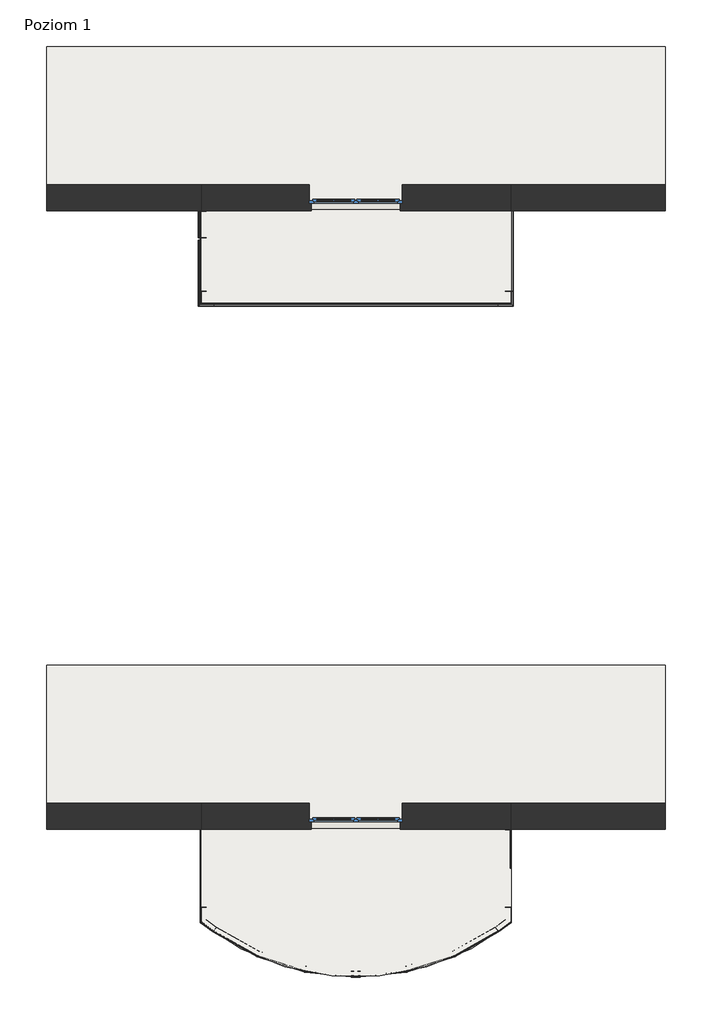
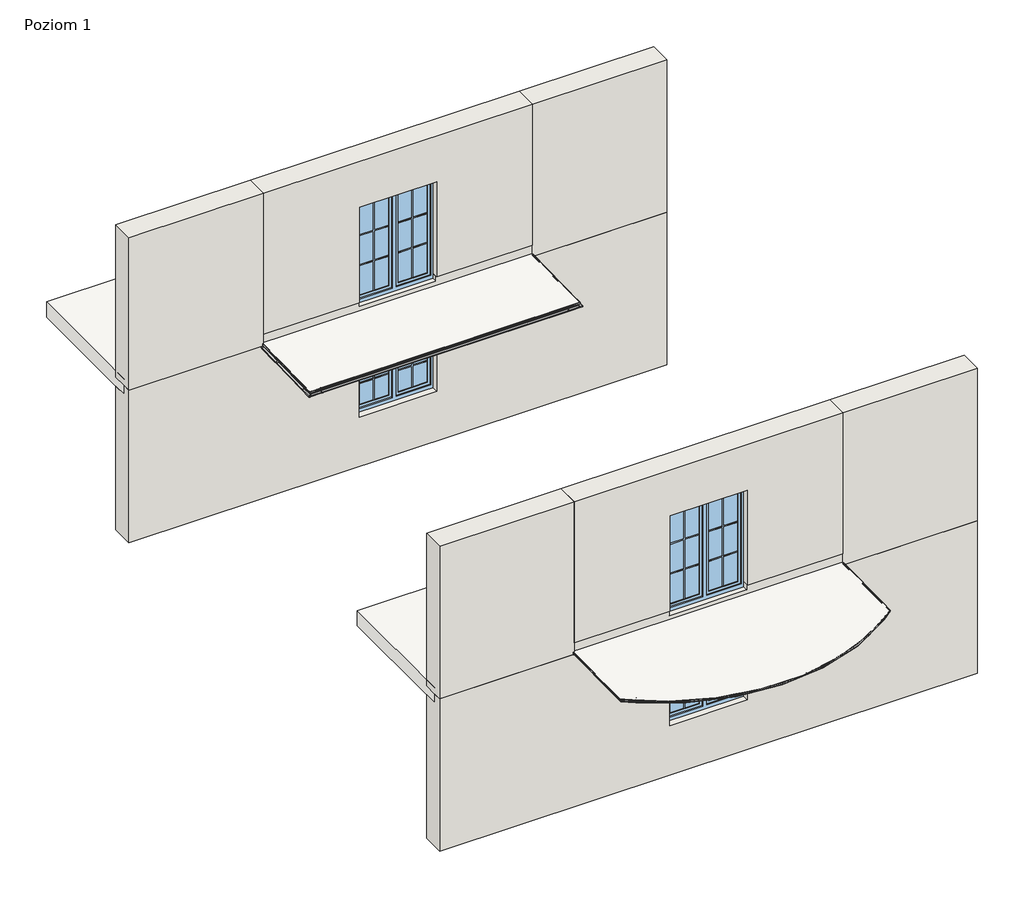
# One storey, part 1 of 4: 15 proxies, 10 walls, 4 slabs, 4 windows.
"""IFC4 building model written with IfcOpenShell, lengths in millimetres."""

from ifc_helpers import new_model, si_unit, frame, origin, place, context, project, spatial, ellipse_curve, faceted_brep, transform, mapped, element, save
from ifc_brep_helpers import plane_surface, cylinder_surface, advanced_brep
from components import k35_28f71dd0, k35_04bc4968, k35_2318d30b, k35_6c38cc01, k35_f5893a44, k35_29e522b6, k35_ef854efd, k35_5c12baea, opk35_b9e4c53d, opk35_ea140d36, rynna_alu_r50_rynna_alu_r50_54312427, rynna_alu_r50_rynna_alu_r50_f6262e87, rynna_alu_r50_rynna_alu_r50_866323d3, rynna_alu_r50_rynna_alu_r50_2037c152, window_150x150_51b7f79a, window_150x200_12b14935

model = new_model("IFC4")

# Units and contexts
model_context = context("Model", 3, world=origin())
ifc_project = project(units=[si_unit("LENGTHUNIT", "METRE", prefix="MILLI")], contexts=[model_context])

# Site, building, storey
site = spatial("IfcSite", under=ifc_project)
building = spatial("IfcBuilding", under=site)
storey = spatial("IfcBuildingStorey", under=building, Name="Poziom 1", Elevation=0.0)

# Proxies
placement = place(None, origin())
k35_shape = k35_28f71dd0(model_context)
element("IfcBuildingElementProxy", 1, Name="K35 Profil okapowy prosty z rynną : K35", ObjectType="K35 Profil okapowy prosty z rynną : K35", at=placement, inside=storey, context=model_context, shape_type="MappedRepresentation", body=[
    mapped(k35_shape, transform((-93404.0384126, 47766.9447036, -109.0), x_axis=(1.0, 0.0, 0.0), y_axis=(0.0, 0.9998044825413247, 0.019773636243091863), z_axis=(0.0, -0.019773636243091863, 0.9998044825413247))),
])
k35_2_shape = k35_04bc4968(model_context)
element("IfcBuildingElementProxy", 2, Name="K35 Profil okapowy prosty z rynną : K35", ObjectType="K35 Profil okapowy prosty z rynną : K35", at=placement, inside=storey, context=model_context, shape_type="MappedRepresentation", body=[
    mapped(k35_2_shape, transform((-93403.8139004, 47976.903645, -104.8475364), x_axis=(0.0, 0.9998044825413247, 0.01977363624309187), y_axis=(-1.0000000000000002, 0.0, 0.0), z_axis=(0.0, -0.019773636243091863, 0.9998044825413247))),
])
k35_3_shape = k35_2318d30b(model_context)
element("IfcBuildingElementProxy", 3, Name="K35 Profil okapowy prosty z rynną : K35", ObjectType="K35 Profil okapowy prosty z rynną : K35", at=placement, inside=storey, context=model_context, shape_type="MappedRepresentation", body=[
    mapped(k35_3_shape, transform((-88384.3806985, 38021.2061428, -94.0703183), x_axis=(-0.001371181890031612, 0.9999243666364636, 0.012222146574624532), y_axis=(-0.9999990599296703, -0.0013710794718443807, -1.675880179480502e-05), z_axis=(0.0, -0.01222215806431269, 0.9999253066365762))),
])
k35_4_shape = k35_6c38cc01(model_context)
element("IfcBuildingElementProxy", 4, Name="K35 Profil okapowy prosty z rynną : K35", ObjectType="K35 Profil okapowy prosty z rynną : K35", at=placement, inside=storey, context=model_context, shape_type="MappedRepresentation", body=[
    mapped(k35_4_shape, transform((-93404.137533, 38021.5303385, -94.0663556), x_axis=(0.0, 0.9999253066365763, 0.012222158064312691), y_axis=(-1.0, 0.0, 0.0), z_axis=(0.0, -0.01222215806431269, 0.9999253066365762))),
])
k35_5_shape = k35_f5893a44(model_context)
element("IfcBuildingElementProxy", 5, Name="K35 Profil okapowy prosty z rynną : K35", ObjectType="K35 Profil okapowy prosty z rynną : K35", at=placement, inside=storey, context=model_context, shape_type="MappedRepresentation", body=[
    mapped(k35_5_shape, transform((-93403.8139004, 48841.5338066, -87.7473107), x_axis=(0.0, 0.9998044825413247, 0.01977363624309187), y_axis=(-1.0000000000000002, 0.0, 0.0), z_axis=(0.0, -0.019773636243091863, 0.9998044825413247))),
])
k35_6_shape = k35_29e522b6(model_context)
element("IfcBuildingElementProxy", 6, Name="K35 Profil okapowy prosty z rynną : K35", ObjectType="K35 Profil okapowy prosty z rynną : K35", at=placement, inside=storey, context=model_context, shape_type="MappedRepresentation", body=[
    mapped(k35_6_shape, transform((-93403.8139004, 48796.7433207, -88.6331547), x_axis=(-0.006059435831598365, 0.9997861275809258, 0.019773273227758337), y_axis=(-0.9999816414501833, -0.0060582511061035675, -0.00011981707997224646), z_axis=(0.0, -0.019773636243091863, 0.9998044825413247))),
])
k35_7_shape = k35_ef854efd(model_context)
element("IfcBuildingElementProxy", 7, Name="K35 Profil okapowy prosty z rynną : K35", ObjectType="K35 Profil okapowy prosty z rynną : K35", at=placement, inside=storey, context=model_context, shape_type="MappedRepresentation", body=[
    mapped(k35_7_shape, transform((-88384.0373349, 47976.903645, -104.8475364), x_axis=(0.0002879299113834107, 0.9998044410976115, 0.019773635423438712), y_axis=(-0.9999999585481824, 0.0002878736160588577, 5.693421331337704e-06), z_axis=(0.0, -0.019773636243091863, 0.9998044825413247))),
])
k35_8_shape = k35_5c12baea(model_context)
element("IfcBuildingElementProxy", 8, Name="K35 Profil okapowy łukowy : K35", ObjectType="K35 Profil okapowy łukowy : K35", at=placement, inside=storey, context=model_context, shape_type="MappedRepresentation", body=[
    mapped(k35_8_shape, transform((-93404.0368238, 37771.5241209, -97.1221994), x_axis=(0.9999999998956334, 1.4446525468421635e-05, 1.7658090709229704e-07), y_axis=(-1.4447604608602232e-05, 0.9999253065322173, 0.012222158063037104), z_axis=(0.0, -0.01222215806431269, 0.9999253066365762))),
])
opk35_shape = opk35_b9e4c53d(model_context)
element("IfcBuildingElementProxy", 9, Name="Odbojnik - OPK35 : OPK35", ObjectType="Odbojnik - OPK35 : OPK35", at=placement, inside=storey, context=model_context, shape_type="MappedRepresentation", body=[
    mapped(opk35_shape, transform((-93398.3875332, 39273.2302797, -94.5616014), x_axis=(0.0, -0.9999253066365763, -0.012222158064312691), y_axis=(1.0, 0.0, 0.0), z_axis=(0.0, -0.01222215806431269, 0.9999253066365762))),
])
element("IfcBuildingElementProxy", 10, Name="Odbojnik - OPK35 : OPK35", ObjectType="Odbojnik - OPK35 : OPK35", at=placement, inside=storey, context=model_context, shape_type="MappedRepresentation", body=[
    mapped(opk35_shape, transform((-93398.0639006, 49269.1632959, -95.086639), x_axis=(0.0, -0.9998044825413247, -0.01977363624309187), y_axis=(1.0000000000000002, 0.0, 0.0), z_axis=(0.0, -0.019773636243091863, 0.9998044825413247))),
])
opk35_2_shape = opk35_ea140d36(model_context)
element("IfcBuildingElementProxy", 11, Name="Odbojnik - OPK35 : OPK35", ObjectType="Odbojnik - OPK35 : OPK35", at=placement, inside=storey, context=model_context, shape_type="MappedRepresentation", body=[
    mapped(opk35_2_shape, transform((-88389.4138318, 49274.1638231, -94.987741), x_axis=(-0.0002879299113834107, -0.9998044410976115, -0.019773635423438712), y_axis=(0.9999999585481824, -0.0002878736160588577, -5.693421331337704e-06), z_axis=(0.0, -0.019773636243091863, 0.9998044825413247))),
])
rynna_alu_r50_rynna_alu_r50_shape = rynna_alu_r50_rynna_alu_r50_54312427(model_context)
element("IfcBuildingElementProxy", 12, Name="Rynna ALU R50 : Rynna ALU R50", ObjectType="Rynna ALU R50 : Rynna ALU R50", at=placement, inside=storey, context=model_context, shape_type="MappedRepresentation", body=[
    mapped(rynna_alu_r50_rynna_alu_r50_shape, transform((-90894.0384076, 47783.1321022, -128.3667451), x_axis=(1.0, 0.0, 0.0), y_axis=(0.0, 0.9998044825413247, 0.019773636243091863), z_axis=(0.0, -0.019773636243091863, 0.9998044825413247))),
])
rynna_alu_r50_rynna_alu_r50_2_shape = rynna_alu_r50_rynna_alu_r50_f6262e87(model_context)
element("IfcBuildingElementProxy", 13, Name="Rynna ALU R50 : Rynna ALU R50", ObjectType="Rynna ALU R50 : Rynna ALU R50", at=placement, inside=storey, context=model_context, shape_type="MappedRepresentation", body=[
    mapped(rynna_alu_r50_rynna_alu_r50_2_shape, transform((-93388.0126177, 48387.2126881, -116.4195394), x_axis=(0.0, 0.9998044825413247, 0.01977363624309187), y_axis=(-1.0000000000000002, 0.0, 0.0), z_axis=(0.0, -0.019773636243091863, 0.9998044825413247))),
])
rynna_alu_r50_rynna_alu_r50_3_shape = rynna_alu_r50_rynna_alu_r50_866323d3(model_context)
element("IfcBuildingElementProxy", 14, Name="Rynna ALU R50 : Rynna ALU R50", ObjectType="Rynna ALU R50 : Rynna ALU R50", at=placement, inside=storey, context=model_context, shape_type="MappedRepresentation", body=[
    mapped(rynna_alu_r50_rynna_alu_r50_3_shape, transform((-93388.0126177, 49056.9813336, -103.1731879), x_axis=(0.0, 0.9998044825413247, 0.01977363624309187), y_axis=(-1.0000000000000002, 0.0, 0.0), z_axis=(0.0, -0.019773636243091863, 0.9998044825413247))),
])
rynna_alu_r50_rynna_alu_r50_4_shape = rynna_alu_r50_rynna_alu_r50_2037c152(model_context)
element("IfcBuildingElementProxy", 15, Name="Rynna ALU R50 : Rynna ALU R50", ObjectType="Rynna ALU R50 : Rynna ALU R50", at=placement, inside=storey, context=model_context, shape_type="MappedRepresentation", body=[
    mapped(rynna_alu_r50_rynna_alu_r50_4_shape, transform((-88399.6514625, 48627.1702375, -111.6737782), x_axis=(0.0002879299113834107, 0.9998044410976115, 0.019773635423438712), y_axis=(-0.9999999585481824, 0.0002878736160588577, 5.693421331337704e-06), z_axis=(0.0, -0.019773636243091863, 0.9998044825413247))),
])

# Slabs
element("IfcSlab", 16, ObjectType="Balkon - wykończenie - posadzka ceramiczna", at=placement, inside=storey, context=model_context, shape_type="Brep", body=[
    faceted_brep([(-93404.0384126, 47766.9447036, -125.0), (-93404.0384126, 47766.9447036, -109.0), (-93404.0384126, 49384.9447036, -77.0), (-93404.0384126, 49384.9447036, -93.0), (-93394.0384126, 49384.9447036, -77.0), (-88394.0384126, 49384.9447036, -77.0), (-88384.0384126, 49384.9447036, -77.0), (-88384.0384126, 49384.9447036, -93.0), (-88394.0384126, 49384.9447036, -93.0), (-93394.0384126, 49384.9447036, -93.0), (-88384.0384126, 47766.9447036, -125.0), (-88384.0384126, 47766.9447036, -109.0)], [[[0, 1, 2, 3]], [[3, 2, 4, 5, 6, 7, 8, 9]], [[10, 11, 1, 0]], [[7, 6, 11, 10]], [[11, 6, 5, 4, 2, 1]], [[10, 0, 3, 9, 8, 7]]]),
])
element("IfcSlab", 17, ObjectType="Balkon - wykończenie - posadzka ceramiczna", at=placement, inside=storey, context=model_context, shape_type="AdvancedBrep", body=[
    advanced_brep(
    [(-93404.0384126, 39384.9447036, -77.0), (-93404.0384126, 39384.9447036, -93.0), (-93404.0384126, 37771.517238, -112.7210385), (-93404.0384126, 37771.517238, -96.7210385), (-93394.0384126, 39384.9447036, -77.0), (-88394.0384126, 39384.9447036, -77.0), (-88384.0384126, 39384.9447036, -77.0), (-88384.0384126, 39384.9447036, -93.0), (-88394.0384126, 39384.9447036, -93.0), (-93394.0384126, 39384.9447036, -93.0), (-88384.0384126, 37771.517238, -96.7210385), (-88384.0384126, 37771.517238, -112.7210385)],
    [
        (0, 1),
        (1, 2),
        (2, 3),
        (3, 0),
        (0, 4),
        (4, 5),
        (5, 6),
        (6, 7),
        (7, 8),
        (8, 9),
        (9, 1),
        (6, 10),
        (10, 11),
        (11, 7),
        (3, 10, ellipse_curve(frame((-90894.0384126, 40898.8163922, -58.4958388), z_axis=(0.0, -0.01222215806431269, 0.9999253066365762), x_axis=(0.0, -0.9999253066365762, -0.012222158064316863)), 4010.2995428, 4010.0)),
        (11, 2, ellipse_curve(frame((-90894.0384126, 40898.8163922, -74.4958388), z_axis=(0.0, 0.01222215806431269, -0.9999253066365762), x_axis=(0.0, -0.9999253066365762, -0.012222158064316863)), 4010.2995428, 4010.0)),
    ],
    [
        plane_surface(frame((-93404.0384126, 36766.9447036, -125.0), z_axis=(-1.0, 0.0, 0.0), x_axis=(0.0, 0.0, 1.0))),
        plane_surface(frame((-93404.0384126, 39384.9447036, -125.0), z_axis=(0.0, 1.0, 0.0), x_axis=(0.0, 0.0, 1.0))),
        plane_surface(frame((-88384.0384126, 39384.9447036, -125.0), z_axis=(1.0, 0.0, 0.0), x_axis=(0.0, 0.0, 1.0))),
        plane_surface(frame((-90894.0384126, 38075.9447036, -93.0), z_axis=(0.0, -0.01222215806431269, 0.9999253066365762), x_axis=(0.0, 0.9999253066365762, 0.01222215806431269))),
        plane_surface(frame((-90894.0384126, 38075.9447036, -109.0), z_axis=(0.0, 0.01222215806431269, -0.9999253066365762), x_axis=(0.0, 0.9999253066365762, 0.01222215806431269))),
        cylinder_surface(frame((-90894.0384126, 40898.8163922, -429.8), z_axis=(0.0, 0.0, -1.0), x_axis=(1.0, 0.0, 0.0)), 4010.0),
    ],
    [
        (0, [[1, 2, 3, 4]]),
        (1, [[-1, 5, 6, 7, 8, 9, 10, 11]]),
        (2, [[-8, 12, 13, 14]]),
        (3, [[-7, -6, -5, -4, 15, -12]]),
        (4, [[-11, -10, -9, -14, 16, -2]]),
        (5, [[-3, -16, -13, -15]]),
    ],
),
])
element("IfcSlab", 18, ObjectType="Strop", at=placement, inside=storey, context=model_context, shape_type="Brep", body=[
    faceted_brep([(-85894.0384126, 49431.9447036, -300.0), (-95894.0384126, 49431.9447036, -300.0), (-95894.0384126, 49696.9447036, -300.0), (-95894.0384126, 51931.9447036, -300.0), (-85894.0384126, 51931.9447036, -300.0), (-85894.0384126, 49696.9447036, -300.0), (-85894.0384126, 49431.9447036, 0.0), (-85894.0384126, 51931.9447036, 0.0), (-95894.0384126, 51931.9447036, 0.0), (-95894.0384126, 49431.9447036, 0.0), (-93394.0384126, 49431.9447036, 0.0), (-91644.0384126, 49431.9447036, 0.0), (-90144.0384126, 49431.9447036, 0.0), (-88394.0384126, 49431.9447036, 0.0), (-85894.0384126, 49431.9447036, -125.0), (-95894.0384126, 49431.9447036, -125.0)], [[[0, 1, 2, 3, 4, 5]], [[6, 7, 8, 9, 10, 11, 12, 13]], [[1, 0, 14, 6, 13, 12, 11, 10, 9, 15]], [[3, 2, 1, 15, 9, 8]], [[4, 3, 8, 7]], [[0, 5, 4, 7, 6, 14]]]),
])
element("IfcSlab", 19, ObjectType="Strop", at=placement, inside=storey, context=model_context, shape_type="Brep", body=[
    faceted_brep([(-85894.0384126, 39431.9447036, -300.0), (-95894.0384126, 39431.9447036, -300.0), (-95894.0384126, 39696.9447036, -300.0), (-95894.0384126, 41931.9447036, -300.0), (-85894.0384126, 41931.9447036, -300.0), (-85894.0384126, 39696.9447036, -300.0), (-85894.0384126, 39431.9447036, 0.0), (-85894.0384126, 41931.9447036, 0.0), (-95894.0384126, 41931.9447036, 0.0), (-95894.0384126, 39431.9447036, 0.0), (-93394.0384126, 39431.9447036, 0.0), (-91644.0384126, 39431.9447036, 0.0), (-90144.0384126, 39431.9447036, 0.0), (-88394.0384126, 39431.9447036, 0.0), (-85894.0384126, 39431.9447036, -125.0), (-95894.0384126, 39431.9447036, -125.0)], [[[0, 1, 2, 3, 4, 5]], [[6, 7, 8, 9, 10, 11, 12, 13]], [[1, 0, 14, 6, 13, 12, 11, 10, 9, 15]], [[3, 2, 1, 15, 9, 8]], [[4, 3, 8, 7]], [[0, 5, 4, 7, 6, 14]]]),
])

# Walls
element("IfcWall", 20, ObjectType="Porotherm P+W 25 + o15 + t", at=placement, inside=storey, context=model_context, shape_type="Brep", body=[
    faceted_brep([(-95894.0384126, 49276.9447036, -3125.0), (-85894.0384126, 49276.9447036, -3125.0), (-85894.0384126, 49276.9447036, -125.0), (-88394.0384126, 49276.9447036, -125.0), (-93394.0384126, 49276.9447036, -125.0), (-95894.0384126, 49276.9447036, -125.0), (-90174.0384126, 49276.9447036, -680.0), (-90174.0384126, 49276.9447036, -2150.0), (-91614.0384126, 49276.9447036, -2150.0), (-91614.0384126, 49276.9447036, -680.0), (-85894.0384126, 49696.9447036, -3125.0), (-95894.0384126, 49696.9447036, -3125.0), (-95894.0384126, 49696.9447036, -300.0), (-85894.0384126, 49696.9447036, -300.0), (-90144.0384126, 49696.9447036, -2150.0), (-90144.0384126, 49696.9447036, -650.0), (-91644.0384126, 49696.9447036, -650.0), (-91644.0384126, 49696.9447036, -2150.0), (-85894.0384126, 49431.9447036, -300.0), (-85894.0384126, 49431.9447036, -125.0), (-88394.0384126, 49431.9447036, -125.0), (-93394.0384126, 49431.9447036, -125.0), (-95894.0384126, 49431.9447036, -125.0), (-95894.0384126, 49431.9447036, -300.0), (-90144.0384126, 49396.9447036, -650.0), (-90144.0384126, 49396.9447036, -2150.0), (-90174.0384126, 49396.9447036, -680.0), (-90174.0384126, 49396.9447036, -2150.0), (-91644.0384126, 49396.9447036, -650.0), (-91644.0384126, 49396.9447036, -2150.0), (-91614.0384126, 49396.9447036, -2150.0), (-91614.0384126, 49396.9447036, -680.0)], [[[0, 1, 2, 3, 4, 5], [6, 7, 8, 9]], [[10, 11, 12, 13], [14, 15, 16, 17]], [[1, 0, 11, 10]], [[2, 1, 10, 13, 18, 19]], [[5, 4, 3, 2, 19, 20, 21, 22]], [[0, 5, 22, 23, 12, 11]], [[24, 15, 14, 25]], [[6, 26, 27, 7]], [[23, 18, 13, 12]], [[18, 23, 22, 21, 20, 19]], [[15, 24, 28, 16]], [[25, 14, 17, 29, 30, 8, 7, 27]], [[28, 24, 25, 27, 26, 31, 30, 29]], [[28, 29, 17, 16]], [[26, 6, 9, 31]], [[8, 30, 31, 9]]]),
])
element("IfcWall", 21, ObjectType="Porotherm P+W 25 + o15 + t", at=placement, inside=storey, context=model_context, shape_type="Brep", body=[
    faceted_brep([(-95894.0384126, 49276.9447036, -125.0), (-93394.0384126, 49276.9447036, -125.0), (-93394.0384126, 49276.9447036, 100.0), (-93394.0384126, 49276.9447036, 2875.0), (-95894.0384126, 49276.9447036, 2875.0), (-95894.0384126, 49696.9447036, -125.0), (-95894.0384126, 49696.9447036, 2875.0), (-93394.0384126, 49696.9447036, 2875.0), (-93394.0384126, 49696.9447036, 100.0), (-93394.0384126, 49696.9447036, 0.0), (-93394.0384126, 49696.9447036, -125.0), (-95894.0384126, 49431.9447036, -125.0), (-93394.0384126, 49431.9447036, -125.0), (-93394.0384126, 49298.9447036, -125.0)], [[[0, 1, 2, 3, 4]], [[5, 6, 7, 8, 9, 10]], [[1, 0, 11, 5, 10, 12, 13]], [[4, 3, 7, 6]], [[0, 4, 6, 5, 11]], [[1, 13, 12, 10, 9, 8, 7, 3, 2]]]),
])
element("IfcWall", 22, ObjectType="Porotherm P+W 25 + o15 + t", at=placement, inside=storey, context=model_context, shape_type="Brep", body=[
    faceted_brep([(-88394.0384126, 49276.9447036, 2875.0), (-88394.0384126, 49276.9447036, 100.0), (-88394.0384126, 49276.9447036, -125.0), (-85894.0384126, 49276.9447036, -125.0), (-85894.0384126, 49276.9447036, 2875.0), (-88394.0384126, 49696.9447036, -125.0), (-88394.0384126, 49696.9447036, 0.0), (-88394.0384126, 49696.9447036, 100.0), (-88394.0384126, 49696.9447036, 2875.0), (-85894.0384126, 49696.9447036, 2875.0), (-85894.0384126, 49696.9447036, -125.0), (-88394.0384126, 49298.9447036, -125.0), (-88394.0384126, 49431.9447036, -125.0), (-85894.0384126, 49431.9447036, -125.0)], [[[0, 1, 2, 3, 4]], [[5, 6, 7, 8, 9, 10]], [[3, 2, 11, 12, 5, 10, 13]], [[4, 3, 13, 10, 9]], [[0, 4, 9, 8]], [[0, 8, 7, 6, 5, 12, 11, 2, 1]]]),
])
element("IfcWall", 23, ObjectType="Porotherm P+W 25 + o12 + pł ceramiczne", at=placement, inside=storey, context=model_context, shape_type="Brep", body=[
    faceted_brep([(-93394.0384126, 49298.9447036, -125.0), (-88394.0384126, 49298.9447036, -125.0), (-88394.0384126, 49298.9447036, -94.7008653), (-93394.0384126, 49298.9447036, -94.7008653), (-88394.0384126, 49298.9447036, 100.0), (-90174.0384126, 49298.9447036, 100.0), (-90174.0384126, 49298.9447036, 0.0), (-91614.0384126, 49298.9447036, 0.0), (-91614.0384126, 49298.9447036, 100.0), (-93394.0384126, 49298.9447036, 100.0), (-93394.0384126, 49298.9447036, -78.7008653), (-88394.0384126, 49298.9447036, -78.7008653), (-93394.0384126, 49696.9447036, 0.0), (-93394.0384126, 49696.9447036, 100.0), (-91644.0384126, 49696.9447036, 100.0), (-91644.0384126, 49696.9447036, 0.0), (-88394.0384126, 49696.9447036, 100.0), (-88394.0384126, 49696.9447036, 0.0), (-90144.0384126, 49696.9447036, 0.0), (-90144.0384126, 49696.9447036, 100.0), (-93394.0384126, 49431.9447036, -125.0), (-88394.0384126, 49431.9447036, -125.0), (-88394.0384126, 49384.9447036, -77.0), (-88394.0384126, 49384.9447036, -93.0), (-88394.0384126, 49431.9447036, 0.0), (-90144.0384126, 49396.9447036, 100.0), (-90174.0384126, 49396.9447036, 100.0), (-91614.0384126, 49396.9447036, 100.0), (-91644.0384126, 49396.9447036, 100.0), (-93394.0384126, 49431.9447036, 0.0), (-93394.0384126, 49384.9447036, -93.0), (-93394.0384126, 49384.9447036, -77.0), (-91644.0384126, 49431.9447036, 0.0), (-90144.0384126, 49431.9447036, 0.0), (-91644.0384126, 49396.9447036, 0.0), (-91614.0384126, 49396.9447036, 0.0), (-90174.0384126, 49396.9447036, 0.0), (-90144.0384126, 49396.9447036, 0.0)], [[[0, 1, 2, 3]], [[4, 5, 6, 7, 8, 9, 10, 11]], [[12, 13, 14, 15]], [[16, 17, 18, 19]], [[1, 0, 20, 21]], [[16, 4, 11, 22, 23, 2, 1, 21, 24, 17]], [[4, 16, 19, 25, 26, 5]], [[13, 9, 8, 27, 28, 14]], [[9, 13, 12, 29, 20, 0, 3, 30, 31, 10]], [[12, 15, 32, 29]], [[17, 24, 33, 18]], [[21, 20, 29, 32, 33, 24]], [[22, 31, 30, 23]], [[31, 22, 11, 10]], [[23, 30, 3, 2]], [[34, 35, 7, 6, 36, 37, 33, 32]], [[35, 34, 28, 27]], [[37, 36, 26, 25]], [[37, 25, 19, 18, 33]], [[28, 34, 32, 15, 14]], [[36, 6, 5, 26]], [[7, 35, 27, 8]]]),
])
element("IfcWall", 24, ObjectType="Porotherm P+W 25 + o15 + t", at=placement, inside=storey, context=model_context, shape_type="Brep", body=[
    faceted_brep([(-88394.0384126, 49276.9447036, 100.0), (-88394.0384126, 49276.9447036, 2875.0), (-93394.0384126, 49276.9447036, 2875.0), (-93394.0384126, 49276.9447036, 100.0), (-91614.0384126, 49276.9447036, 100.0), (-91614.0384126, 49276.9447036, 1970.0), (-90174.0384126, 49276.9447036, 1970.0), (-90174.0384126, 49276.9447036, 100.0), (-88394.0384126, 49696.9447036, 2875.0), (-88394.0384126, 49696.9447036, 100.0), (-90144.0384126, 49696.9447036, 100.0), (-90144.0384126, 49696.9447036, 2000.0), (-91644.0384126, 49696.9447036, 2000.0), (-91644.0384126, 49696.9447036, 100.0), (-93394.0384126, 49696.9447036, 100.0), (-93394.0384126, 49696.9447036, 2875.0), (-93394.0384126, 49298.9447036, 100.0), (-91644.0384126, 49396.9447036, 100.0), (-91614.0384126, 49396.9447036, 100.0), (-91614.0384126, 49298.9447036, 100.0), (-88394.0384126, 49298.9447036, 100.0), (-90174.0384126, 49298.9447036, 100.0), (-90174.0384126, 49396.9447036, 100.0), (-90144.0384126, 49396.9447036, 100.0), (-90144.0384126, 49396.9447036, 2000.0), (-90174.0384126, 49396.9447036, 1970.0), (-91644.0384126, 49396.9447036, 2000.0), (-91614.0384126, 49396.9447036, 1970.0)], [[[0, 1, 2, 3, 4, 5, 6, 7]], [[8, 9, 10, 11, 12, 13, 14, 15]], [[3, 16, 14, 13, 17, 18, 19, 4]], [[9, 20, 0, 7, 21, 22, 23, 10]], [[1, 0, 20, 9, 8]], [[2, 1, 8, 15]], [[3, 2, 15, 14, 16]], [[24, 11, 10, 23]], [[6, 25, 22, 21, 7]], [[26, 12, 11, 24]], [[26, 24, 23, 22, 25, 27, 18, 17]], [[12, 26, 17, 13]], [[27, 25, 6, 5]], [[27, 5, 4, 19, 18]]]),
])
element("IfcWall", 25, ObjectType="Porotherm P+W 25 + o15 + t", at=placement, inside=storey, context=model_context, shape_type="Brep", body=[
    faceted_brep([(-95894.0384126, 39276.9447036, -3125.0), (-85894.0384126, 39276.9447036, -3125.0), (-85894.0384126, 39276.9447036, -125.0), (-88394.0384126, 39276.9447036, -125.0), (-93394.0384126, 39276.9447036, -125.0), (-95894.0384126, 39276.9447036, -125.0), (-90174.0384126, 39276.9447036, -680.0), (-90174.0384126, 39276.9447036, -2150.0), (-91614.0384126, 39276.9447036, -2150.0), (-91614.0384126, 39276.9447036, -680.0), (-85894.0384126, 39696.9447036, -3125.0), (-95894.0384126, 39696.9447036, -3125.0), (-95894.0384126, 39696.9447036, -300.0), (-85894.0384126, 39696.9447036, -300.0), (-90144.0384126, 39696.9447036, -2150.0), (-90144.0384126, 39696.9447036, -650.0), (-91644.0384126, 39696.9447036, -650.0), (-91644.0384126, 39696.9447036, -2150.0), (-85894.0384126, 39431.9447036, -300.0), (-85894.0384126, 39431.9447036, -125.0), (-88394.0384126, 39431.9447036, -125.0), (-93394.0384126, 39431.9447036, -125.0), (-95894.0384126, 39431.9447036, -125.0), (-95894.0384126, 39431.9447036, -300.0), (-90144.0384126, 39396.9447036, -650.0), (-90144.0384126, 39396.9447036, -2150.0), (-90174.0384126, 39396.9447036, -680.0), (-90174.0384126, 39396.9447036, -2150.0), (-91644.0384126, 39396.9447036, -650.0), (-91644.0384126, 39396.9447036, -2150.0), (-91614.0384126, 39396.9447036, -2150.0), (-91614.0384126, 39396.9447036, -680.0)], [[[0, 1, 2, 3, 4, 5], [6, 7, 8, 9]], [[10, 11, 12, 13], [14, 15, 16, 17]], [[1, 0, 11, 10]], [[2, 1, 10, 13, 18, 19]], [[5, 4, 3, 2, 19, 20, 21, 22]], [[0, 5, 22, 23, 12, 11]], [[24, 15, 14, 25]], [[6, 26, 27, 7]], [[23, 18, 13, 12]], [[18, 23, 22, 21, 20, 19]], [[15, 24, 28, 16]], [[25, 14, 17, 29, 30, 8, 7, 27]], [[28, 24, 25, 27, 26, 31, 30, 29]], [[28, 29, 17, 16]], [[26, 6, 9, 31]], [[8, 30, 31, 9]]]),
])
element("IfcWall", 26, ObjectType="Porotherm P+W 25 + o15 + t", at=placement, inside=storey, context=model_context, shape_type="Brep", body=[
    faceted_brep([(-95894.0384126, 39276.9447036, -125.0), (-93394.0384126, 39276.9447036, -125.0), (-93394.0384126, 39276.9447036, 100.0), (-93394.0384126, 39276.9447036, 2875.0), (-95894.0384126, 39276.9447036, 2875.0), (-95894.0384126, 39696.9447036, -125.0), (-95894.0384126, 39696.9447036, 2875.0), (-93394.0384126, 39696.9447036, 2875.0), (-93394.0384126, 39696.9447036, 100.0), (-93394.0384126, 39696.9447036, 0.0), (-93394.0384126, 39696.9447036, -125.0), (-95894.0384126, 39431.9447036, -125.0), (-93394.0384126, 39431.9447036, -125.0), (-93394.0384126, 39298.9447036, -125.0)], [[[0, 1, 2, 3, 4]], [[5, 6, 7, 8, 9, 10]], [[1, 0, 11, 5, 10, 12, 13]], [[4, 3, 7, 6]], [[0, 4, 6, 5, 11]], [[1, 13, 12, 10, 9, 8, 7, 3, 2]]]),
])
element("IfcWall", 27, ObjectType="Porotherm P+W 25 + o15 + t", at=placement, inside=storey, context=model_context, shape_type="Brep", body=[
    faceted_brep([(-88394.0384126, 39276.9447036, 2875.0), (-88394.0384126, 39276.9447036, 100.0), (-88394.0384126, 39276.9447036, -125.0), (-85894.0384126, 39276.9447036, -125.0), (-85894.0384126, 39276.9447036, 2875.0), (-88394.0384126, 39696.9447036, -125.0), (-88394.0384126, 39696.9447036, 0.0), (-88394.0384126, 39696.9447036, 100.0), (-88394.0384126, 39696.9447036, 2875.0), (-85894.0384126, 39696.9447036, 2875.0), (-85894.0384126, 39696.9447036, -125.0), (-88394.0384126, 39298.9447036, -125.0), (-88394.0384126, 39431.9447036, -125.0), (-85894.0384126, 39431.9447036, -125.0)], [[[0, 1, 2, 3, 4]], [[5, 6, 7, 8, 9, 10]], [[3, 2, 11, 12, 5, 10, 13]], [[4, 3, 13, 10, 9]], [[0, 4, 9, 8]], [[0, 8, 7, 6, 5, 12, 11, 2, 1]]]),
])
element("IfcWall", 28, ObjectType="Porotherm P+W 25 + o12 + pł ceramiczne", at=placement, inside=storey, context=model_context, shape_type="Brep", body=[
    faceted_brep([(-93394.0384126, 39298.9447036, -125.0), (-88394.0384126, 39298.9447036, -125.0), (-88394.0384126, 39298.9447036, -94.0511841), (-93394.0384126, 39298.9447036, -94.0511841), (-88394.0384126, 39298.9447036, 100.0), (-90174.0384126, 39298.9447036, 100.0), (-90174.0384126, 39298.9447036, 0.0), (-91614.0384126, 39298.9447036, 0.0), (-91614.0384126, 39298.9447036, 100.0), (-93394.0384126, 39298.9447036, 100.0), (-93394.0384126, 39298.9447036, -78.0511841), (-88394.0384126, 39298.9447036, -78.0511841), (-88394.0384126, 39696.9447036, 100.0), (-88394.0384126, 39696.9447036, 0.0), (-90144.0384126, 39696.9447036, 0.0), (-90144.0384126, 39696.9447036, 100.0), (-93394.0384126, 39696.9447036, 0.0), (-93394.0384126, 39696.9447036, 100.0), (-91644.0384126, 39696.9447036, 100.0), (-91644.0384126, 39696.9447036, 0.0), (-93394.0384126, 39431.9447036, -125.0), (-88394.0384126, 39431.9447036, -125.0), (-88394.0384126, 39384.9447036, -77.0), (-88394.0384126, 39384.9447036, -93.0), (-88394.0384126, 39431.9447036, 0.0), (-90144.0384126, 39396.9447036, 100.0), (-90174.0384126, 39396.9447036, 100.0), (-91614.0384126, 39396.9447036, 100.0), (-91644.0384126, 39396.9447036, 100.0), (-93394.0384126, 39431.9447036, 0.0), (-93394.0384126, 39384.9447036, -93.0), (-93394.0384126, 39384.9447036, -77.0), (-91644.0384126, 39431.9447036, 0.0), (-90144.0384126, 39431.9447036, 0.0), (-91644.0384126, 39396.9447036, 0.0), (-91614.0384126, 39396.9447036, 0.0), (-90174.0384126, 39396.9447036, 0.0), (-90144.0384126, 39396.9447036, 0.0)], [[[0, 1, 2, 3]], [[4, 5, 6, 7, 8, 9, 10, 11]], [[12, 13, 14, 15]], [[16, 17, 18, 19]], [[1, 0, 20, 21]], [[12, 4, 11, 22, 23, 2, 1, 21, 24, 13]], [[4, 12, 15, 25, 26, 5]], [[17, 9, 8, 27, 28, 18]], [[9, 17, 16, 29, 20, 0, 3, 30, 31, 10]], [[16, 19, 32, 29]], [[13, 24, 33, 14]], [[21, 20, 29, 32, 33, 24]], [[22, 31, 30, 23]], [[31, 22, 11, 10]], [[23, 30, 3, 2]], [[34, 35, 7, 6, 36, 37, 33, 32]], [[35, 34, 28, 27]], [[37, 36, 26, 25]], [[37, 25, 15, 14, 33]], [[28, 34, 32, 19, 18]], [[36, 6, 5, 26]], [[7, 35, 27, 8]]]),
])
element("IfcWall", 29, ObjectType="Porotherm P+W 25 + o15 + t", at=placement, inside=storey, context=model_context, shape_type="Brep", body=[
    faceted_brep([(-88394.0384126, 39276.9447036, 100.0), (-88394.0384126, 39276.9447036, 2875.0), (-93394.0384126, 39276.9447036, 2875.0), (-93394.0384126, 39276.9447036, 100.0), (-91614.0384126, 39276.9447036, 100.0), (-91614.0384126, 39276.9447036, 1970.0), (-90174.0384126, 39276.9447036, 1970.0), (-90174.0384126, 39276.9447036, 100.0), (-88394.0384126, 39696.9447036, 2875.0), (-88394.0384126, 39696.9447036, 100.0), (-90144.0384126, 39696.9447036, 100.0), (-90144.0384126, 39696.9447036, 2000.0), (-91644.0384126, 39696.9447036, 2000.0), (-91644.0384126, 39696.9447036, 100.0), (-93394.0384126, 39696.9447036, 100.0), (-93394.0384126, 39696.9447036, 2875.0), (-93394.0384126, 39298.9447036, 100.0), (-91644.0384126, 39396.9447036, 100.0), (-91614.0384126, 39396.9447036, 100.0), (-91614.0384126, 39298.9447036, 100.0), (-88394.0384126, 39298.9447036, 100.0), (-90174.0384126, 39298.9447036, 100.0), (-90174.0384126, 39396.9447036, 100.0), (-90144.0384126, 39396.9447036, 100.0), (-90144.0384126, 39396.9447036, 2000.0), (-90174.0384126, 39396.9447036, 1970.0), (-91644.0384126, 39396.9447036, 2000.0), (-91614.0384126, 39396.9447036, 1970.0)], [[[0, 1, 2, 3, 4, 5, 6, 7]], [[8, 9, 10, 11, 12, 13, 14, 15]], [[3, 16, 14, 13, 17, 18, 19, 4]], [[9, 20, 0, 7, 21, 22, 23, 10]], [[1, 0, 20, 9, 8]], [[2, 1, 8, 15]], [[3, 2, 15, 14, 16]], [[24, 11, 10, 23]], [[6, 25, 22, 21, 7]], [[26, 12, 11, 24]], [[26, 24, 23, 22, 25, 27, 18, 17]], [[12, 26, 17, 13]], [[27, 25, 6, 5]], [[27, 5, 4, 19, 18]]]),
])

# Windows
window_150x150_shape = window_150x150_51b7f79a(model_context)
element("IfcWindow", 30, ObjectType="OKNO_2X_W_SZ : 150x150", at=placement, inside=storey, context=model_context, shape_type="MappedRepresentation", body=[
    mapped(window_150x150_shape, transform((-90894.0384126, 49486.9447036, -3000.0), x_axis=(-1.0, 0.0, 0.0), y_axis=(0.0, -1.0, 0.0), z_axis=(0.0, 0.0, 1.0))),
])
element("IfcWindow", 31, ObjectType="OKNO_2X_W_SZ : 150x150", at=placement, inside=storey, context=model_context, shape_type="MappedRepresentation", body=[
    mapped(window_150x150_shape, transform((-90894.0384126, 39486.9447036, -3000.0), x_axis=(-1.0, 0.0, 0.0), y_axis=(0.0, -1.0, 0.0), z_axis=(0.0, 0.0, 1.0))),
])
window_150x200_shape = window_150x200_12b14935(model_context)
element("IfcWindow", 32, ObjectType="OKNO_2X_W_SZ : 150x200", at=placement, inside=storey, context=model_context, shape_type="MappedRepresentation", body=[
    mapped(window_150x200_shape, transform((-90894.0384126, 49486.9447036, -850.0), x_axis=(-1.0, 0.0, 0.0), y_axis=(0.0, -1.0, 0.0), z_axis=(0.0, 0.0, 1.0))),
])
element("IfcWindow", 33, ObjectType="OKNO_2X_W_SZ : 150x200", at=placement, inside=storey, context=model_context, shape_type="MappedRepresentation", body=[
    mapped(window_150x200_shape, transform((-90894.0384126, 39486.9447036, -850.0), x_axis=(-1.0, 0.0, 0.0), y_axis=(0.0, -1.0, 0.0), z_axis=(0.0, 0.0, 1.0))),
])

save(model, "model.ifc")
